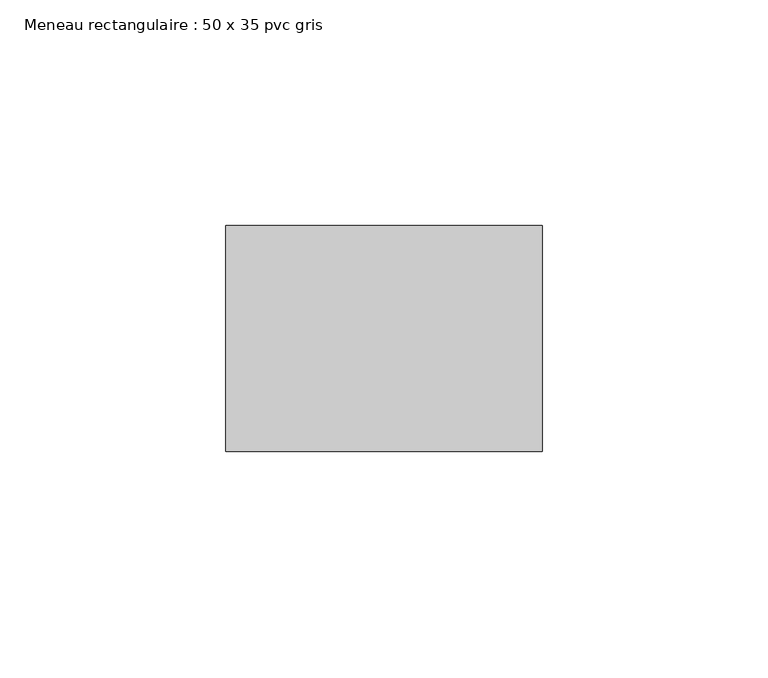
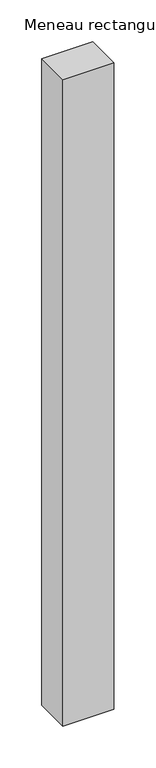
"""IFC4 building model written with IfcOpenShell, lengths in millimetres: member geometry, Meneau rectangulaire : 50 x 35 pvc gris."""

from ifc_helpers import new_model, si_unit, frame, origin, place, context, project, spatial, polyline, outline, extrude, source, transform, mapped, element, save


def meneau_rectangulaire_50_x_35_pvc_gris_27fea025(model_context):
    return source(origin(), model_context, "Body", "SweptSolid", [
        extrude(outline(polyline([(0.0, 0.0), (0.0, -50.0), (-70.0, -50.0), (-70.0, 0.0), (0.0, 0.0)])), frame((0.0, 0.0, -940.645148), z_axis=(0.0, 0.0, 1.0), x_axis=(1.0, 0.0, 0.0)), (0.0, 0.0, 1.0), 940.645148),
    ])


if __name__ == "__main__":
    model = new_model("IFC4")
    model_context = context("Model", 3, world=origin())
    ifc_project = project(units=[si_unit("LENGTHUNIT", "METRE", prefix="MILLI")], contexts=[model_context])
    site = spatial("IfcSite", under=ifc_project)
    building = spatial("IfcBuilding", under=site)
    placement = place(None, origin())
    meneau_rectangulaire_50_x_35_pvc_gris_shape = meneau_rectangulaire_50_x_35_pvc_gris_27fea025(model_context)
    element("IfcMember", 1, ObjectType="Meneau rectangulaire : 50 x 35 pvc gris", at=placement, inside=building, context=model_context, shape_type="MappedRepresentation", body=[
        mapped(meneau_rectangulaire_50_x_35_pvc_gris_shape, transform((0.0, 0.0, 0.0), x_axis=(1.0, 0.0, 0.0), y_axis=(0.0, 1.0, 0.0), z_axis=(0.0, 0.0, 1.0))),
    ])
    save(model, "model.ifc")
